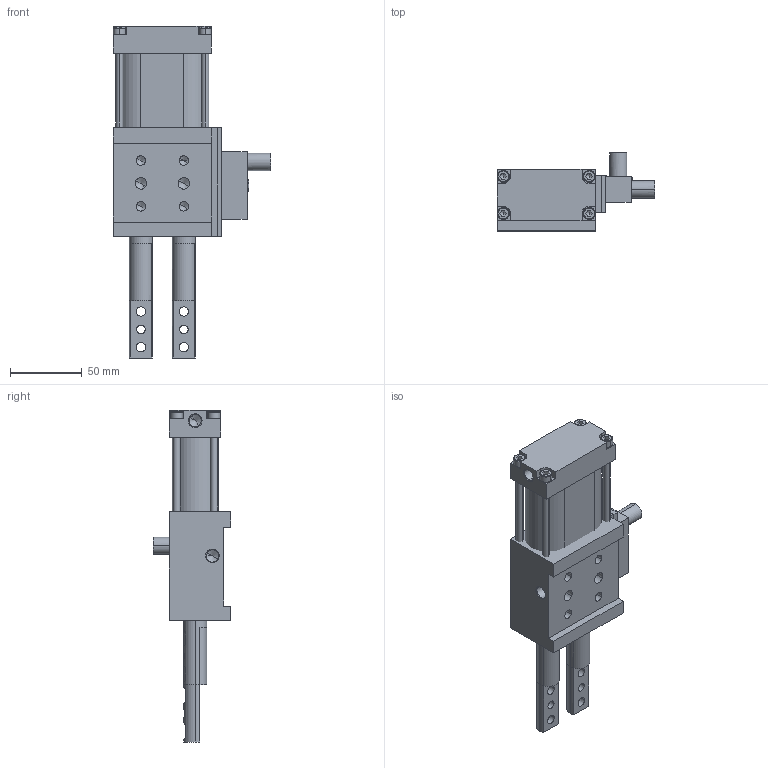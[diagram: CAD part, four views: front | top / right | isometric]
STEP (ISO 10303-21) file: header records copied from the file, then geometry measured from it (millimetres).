
FILE_DESCRIPTION(('CATIA V5 STEP Exchange'),'2;1');
FILE_NAME('C:\Users\huberm\Desktop\SZKD_40_5_A23_T12_TUENKERS.stp','2012-03-14T07:46:13+00:00',('none'),('none'),'CATIA Version 5 Release 19 SP 3 (IN-10)','CATIA V5 STEP AP203','none');
FILE_SCHEMA(('CONFIG_CONTROL_DESIGN'));
Length unit declared in the file: millimetre
Products named in the file (1): SZKD_40_5_A23_T12_TUENKERS
Bounding box: 110.1 x 54.5 x 232 mm (x, y, z)
Volume: 418897.3 mm3; surface area: 109154 mm2
Topology: 15 solids, 15 shells, 546 faces, 1619 edges, 1125 vertices
Faces by surface type: plane 257, cylinder 127, bspline 100, cone 44, torus 18
Entity records: 19469 total; most frequent: CARTESIAN_POINT 6240, ORIENTED_EDGE 3186, DIRECTION 1867, EDGE_CURVE 1593, VERTEX_POINT 1126, AXIS2_PLACEMENT_3D 743, VECTOR 694, LINE 694
